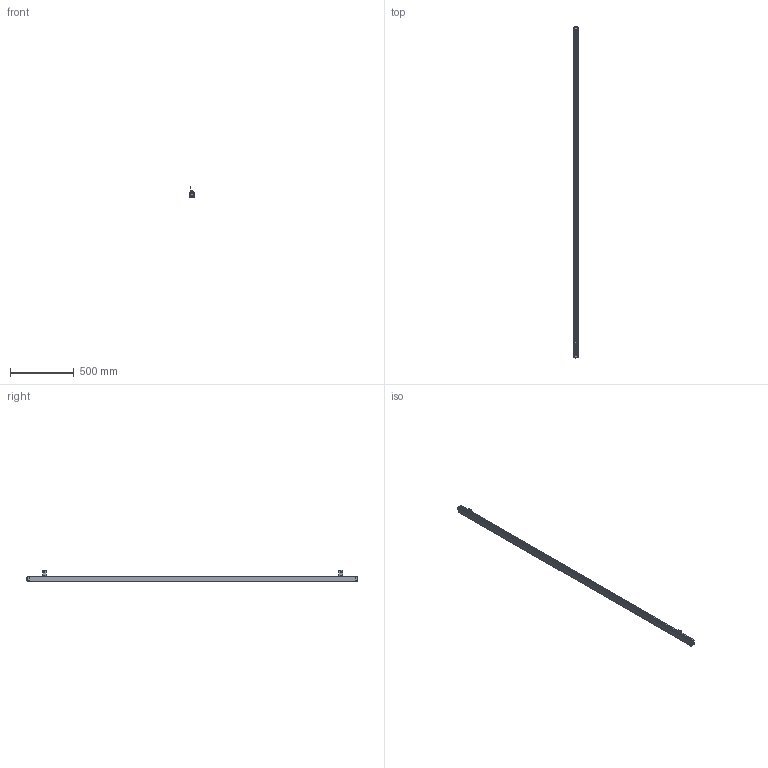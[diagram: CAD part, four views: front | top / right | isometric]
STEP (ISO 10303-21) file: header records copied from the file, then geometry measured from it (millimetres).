
FILE_DESCRIPTION((''),'2;1');
FILE_NAME('ESCL-00_ASM','2021-07-17T10:44:17',('18720616900'),(''),'CREO PARAMETRIC BY PTC INC, 2019010','CREO PARAMETRIC BY PTC INC, 2019010','');
FILE_SCHEMA(('CONFIG_CONTROL_DESIGN'));
Products named in the file (12): ESCL-00; ESCL-3-SOLID1000; ESCL-4-SOLID1000; HKCT1_-4-SOLID1; L10001; M6-8--0001; M6-1--00; M6-1-00; 00; M6-80001_ASM; L1--0001_ASM; ESCL-00_ASM
Assembly tree (12 placements, depth 4):
  ESCL-00_ASM
    ESCL-00
    ESCL-3-SOLID1000
    ESCL-4-SOLID1000
    HKCT1_-4-SOLID1
    L1--0001_ASM  x2
      L10001
      M6-80001_ASM
        M6-8--0001
        M6-1--00
        M6-1-00
        00
Bounding box: 36.1 x 2605.1 x 91.11 mm (x, y, z)
Volume: 3728797.5 mm3; surface area: 531959.5 mm2
Topology: 14 solids, 14 shells, 625 faces, 1645 edges, 1070 vertices
Faces by surface type: plane 226, cylinder 208, cone 78, bspline 66, torus 47
Entity records: 76177 total; most frequent: CARTESIAN_POINT 63991, ORIENTED_EDGE 2664, DIRECTION 2275, EDGE_CURVE 1332, VERTEX_POINT 872, AXIS2_PLACEMENT_3D 816, VECTOR 643, LINE 643
